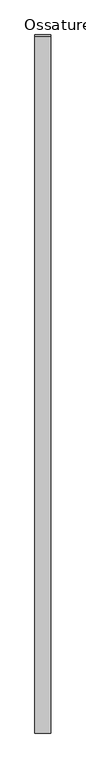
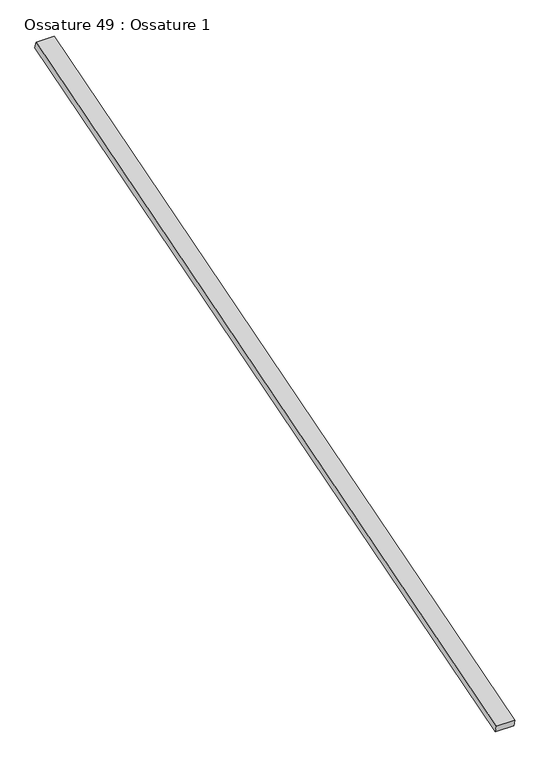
"""IFC4 building model written with IfcOpenShell, lengths in millimetres: beam geometry, Ossature 49 : Ossature 1."""

from ifc_helpers import new_model, si_unit, frame, origin, place, context, project, spatial, polyline, outline, extrude, source, transform, mapped, element, save


def ossature_49_ossature_1_ad359c59(model_context):
    return source(origin(), model_context, "Body", "SweptSolid", [
        extrude(outline(polyline([(0.0, 0.0), (0.0, -4543.0299679), (-100.0, -4543.0299679), (-100.0, 0.0), (0.0, 0.0)])), frame((11967.8466393, -833.3913565, 8153.6336115), z_axis=(0.0, -0.28734788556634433, 0.9578262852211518), x_axis=(-1.0, 0.0, 0.0)), (0.0, 0.0, 1.0), 40.0),
    ])


if __name__ == "__main__":
    model = new_model("IFC4")
    model_context = context("Model", 3, world=origin())
    ifc_project = project(units=[si_unit("LENGTHUNIT", "METRE", prefix="MILLI")], contexts=[model_context])
    site = spatial("IfcSite", under=ifc_project)
    building = spatial("IfcBuilding", under=site)
    placement = place(None, origin())
    ossature_49_ossature_1_shape = ossature_49_ossature_1_ad359c59(model_context)
    element("IfcBeam", 1, ObjectType="Ossature 49 : Ossature 1", at=placement, inside=building, context=model_context, shape_type="MappedRepresentation", body=[
        mapped(ossature_49_ossature_1_shape, transform((0.0, 0.0, 0.0), x_axis=(1.0, 0.0, 0.0), y_axis=(0.0, 1.0, 0.0), z_axis=(0.0, 0.0, 1.0))),
    ])
    save(model, "model.ifc")
